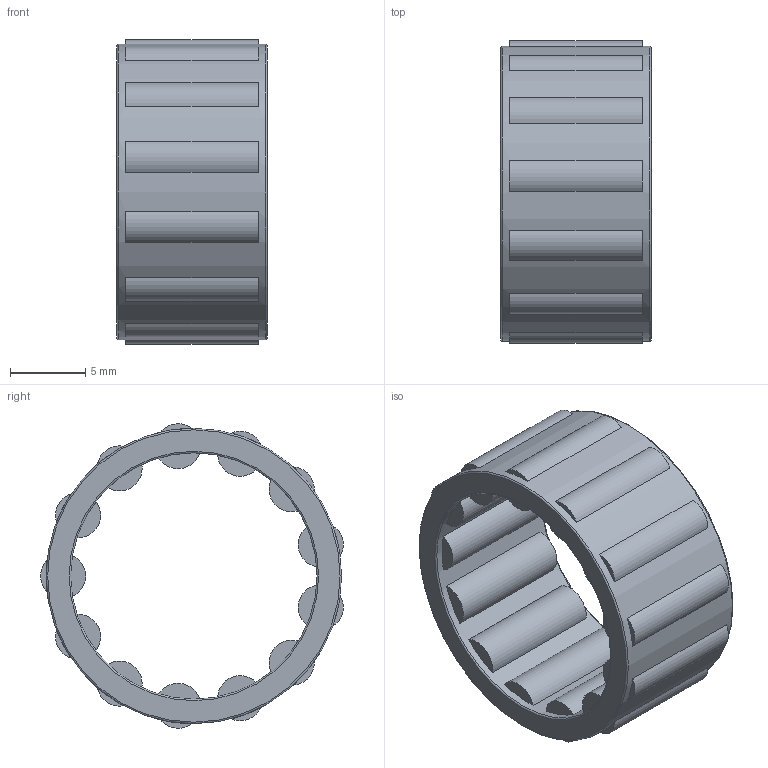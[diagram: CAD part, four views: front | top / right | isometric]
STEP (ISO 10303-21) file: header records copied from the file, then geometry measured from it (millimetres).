
FILE_DESCRIPTION(/* description */ (''),/* implementation_level */ '2;1');
FILE_NAME(/* name */ 'C:\Users\OUREHANEKD\Desktop\Ihlove loziska\KZK\KZK-01\KZK14,4x20,4x10.stp',/* time_stamp */ '2016-10-05T11:32:47+02:00',/* author */ ('OUREHANEKD'),/* organization */ (''),/* preprocessor_version */ 'ST-DEVELOPER v15.6',/* originating_system */ 'Autodesk Inventor 2015',/* authorisation */ '');
FILE_SCHEMA (('AUTOMOTIVE_DESIGN { 1 0 10303 214 3 1 1 }'));
Length unit declared in the file: millimetre
Products named in the file (1): KZK14,4x20,4x10
Bounding box: 10 x 20.14 x 20.27 mm (x, y, z)
Volume: 1207.4 mm3; surface area: 1477.3 mm2
Topology: 1 solids, 1 shells, 86 faces, 176 edges, 116 vertices
Faces by surface type: plane 54, cylinder 28, torus 4
Full cylindrical faces by diameter (mm): 16.4 x1, 19.66 x1
Entity records: 2272 total; most frequent: DIRECTION 450, CARTESIAN_POINT 363, ORIENTED_EDGE 328, AXIS2_PLACEMENT_3D 199, EDGE_CURVE 164, EDGE_LOOP 120, CIRCLE 112, VERTEX_POINT 112
